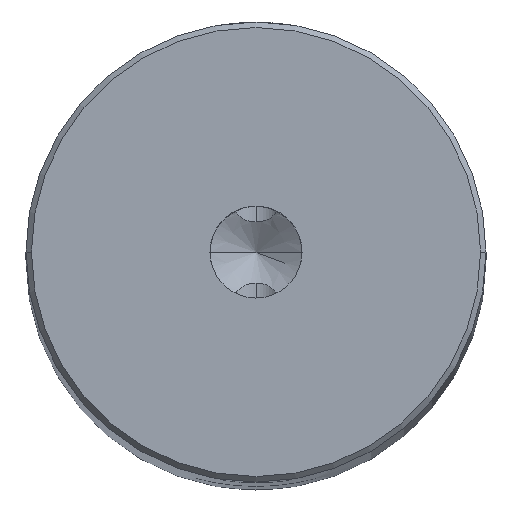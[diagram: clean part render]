
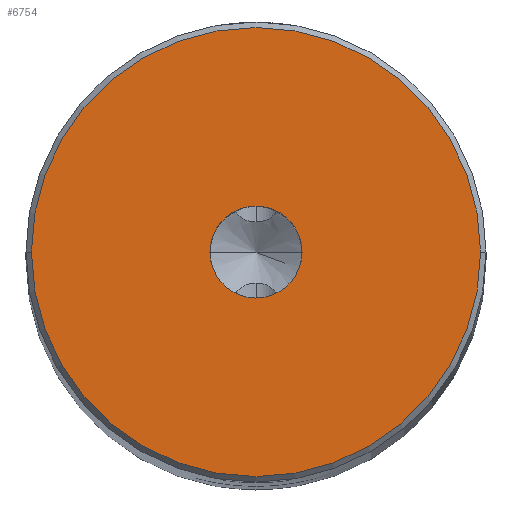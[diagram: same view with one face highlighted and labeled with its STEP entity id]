
A CAD part, top view. The second image highlights one B-rep face of the part: STEP entity #6754.
In plain terms, the highlighted planar face has unit normal (0, 0, 1).
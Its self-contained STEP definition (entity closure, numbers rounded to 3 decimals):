
#215 = DIRECTION ( 'NONE',  ( 1., 0., 0. ) ) ;
#852 = DIRECTION ( 'NONE',  ( 1., 0., 0. ) ) ;
#901 = CARTESIAN_POINT ( 'NONE',  ( 0., 0., 245.3 ) ) ;
#951 = DIRECTION ( 'NONE',  ( 0., 0., 1. ) ) ;
#1053 = AXIS2_PLACEMENT_3D ( 'NONE', #8727, #8823, #3659 ) ;
#1135 = DIRECTION ( 'NONE',  ( 1., 0., 0. ) ) ;
#1202 = CIRCLE ( 'NONE', #1053, 2.5 ) ;
#1346 = EDGE_LOOP ( 'NONE', ( #4753, #9334 ) ) ;
#2081 = EDGE_LOOP ( 'NONE', ( #5602, #3313 ) ) ;
#2291 = CIRCLE ( 'NONE', #7752, 12.2 ) ;
#2297 = DIRECTION ( 'NONE',  ( 0., 0., 1. ) ) ;
#2458 = AXIS2_PLACEMENT_3D ( 'NONE', #5923, #2297, #5286 ) ;
#2736 = VERTEX_POINT ( 'NONE', #7535 ) ;
#2786 = EDGE_CURVE ( 'NONE', #2736, #3559, #5100, .T. ) ;
#3067 = VERTEX_POINT ( 'NONE', #3239 ) ;
#3082 = AXIS2_PLACEMENT_3D ( 'NONE', #5341, #8309, #1135 ) ;
#3239 = CARTESIAN_POINT ( 'NONE',  ( -2.5, 0., 245.3 ) ) ;
#3313 = ORIENTED_EDGE ( 'NONE', *, *, #4429, .F. ) ;
#3559 = VERTEX_POINT ( 'NONE', #4782 ) ;
#3659 = DIRECTION ( 'NONE',  ( 1., 0., 0. ) ) ;
#4001 = EDGE_CURVE ( 'NONE', #8621, #3067, #1202, .T. ) ;
#4054 = CARTESIAN_POINT ( 'NONE',  ( 2.5, 0., 245.3 ) ) ;
#4368 = FACE_OUTER_BOUND ( 'NONE', #1346, .T. ) ;
#4429 = EDGE_CURVE ( 'NONE', #3067, #8621, #7906, .T. ) ;
#4753 = ORIENTED_EDGE ( 'NONE', *, *, #2786, .T. ) ;
#4782 = CARTESIAN_POINT ( 'NONE',  ( 12.2, 0., 245.3 ) ) ;
#4970 = EDGE_CURVE ( 'NONE', #3559, #2736, #2291, .T. ) ;
#5100 = CIRCLE ( 'NONE', #3082, 12.2 ) ;
#5138 = PLANE ( 'NONE',  #2458 ) ;
#5286 = DIRECTION ( 'NONE',  ( 1., 0., 0. ) ) ;
#5341 = CARTESIAN_POINT ( 'NONE',  ( 0., 0., 245.3 ) ) ;
#5602 = ORIENTED_EDGE ( 'NONE', *, *, #4001, .F. ) ;
#5875 = FACE_BOUND ( 'NONE', #2081, .T. ) ;
#5923 = CARTESIAN_POINT ( 'NONE',  ( 0., 0., 245.3 ) ) ;
#6754 = ADVANCED_FACE ( 'NONE', ( #4368, #5875 ), #5138, .T. ) ;
#6908 = DIRECTION ( 'NONE',  ( 0., 0., 1. ) ) ;
#7535 = CARTESIAN_POINT ( 'NONE',  ( -12.2, 0., 245.3 ) ) ;
#7752 = AXIS2_PLACEMENT_3D ( 'NONE', #8363, #951, #852 ) ;
#7906 = CIRCLE ( 'NONE', #9163, 2.5 ) ;
#8309 = DIRECTION ( 'NONE',  ( 0., 0., 1. ) ) ;
#8363 = CARTESIAN_POINT ( 'NONE',  ( 0., 0., 245.3 ) ) ;
#8621 = VERTEX_POINT ( 'NONE', #4054 ) ;
#8727 = CARTESIAN_POINT ( 'NONE',  ( 0., 0., 245.3 ) ) ;
#8823 = DIRECTION ( 'NONE',  ( 0., 0., 1. ) ) ;
#9163 = AXIS2_PLACEMENT_3D ( 'NONE', #901, #6908, #215 ) ;
#9334 = ORIENTED_EDGE ( 'NONE', *, *, #4970, .T. ) ;
